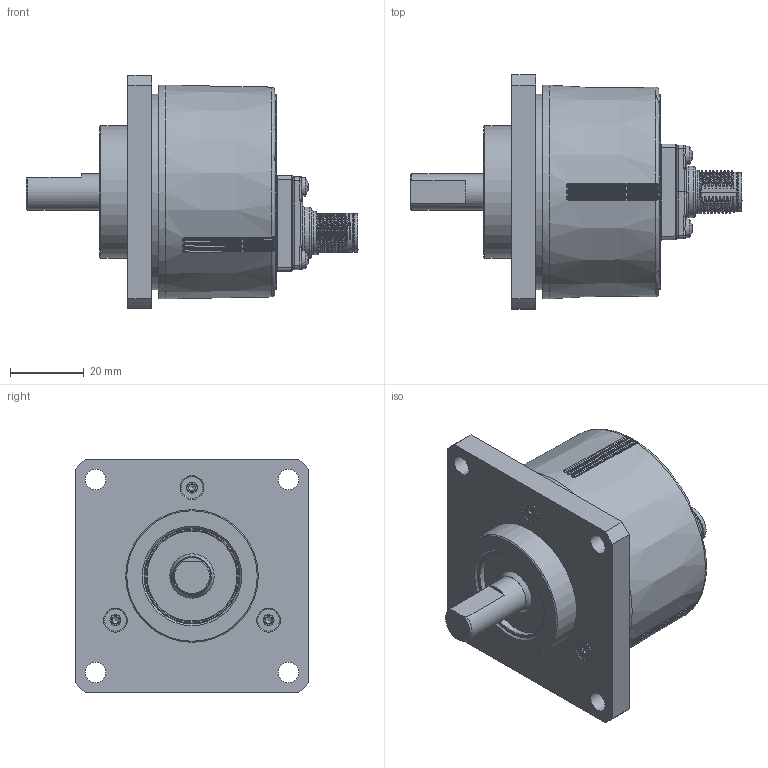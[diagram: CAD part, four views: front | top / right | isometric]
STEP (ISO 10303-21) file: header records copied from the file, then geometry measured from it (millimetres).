
FILE_DESCRIPTION( ( 'Unknown' ), '1' );
FILE_NAME( '//emea.baumernet.org/de05d/RD/caddy/k/GESAMT/EIL580/EIL580/3D/STEP/MarCom/EIL580-SQ10.7Ax.xxxxx.A.stp', 'Unknown', ( 'Unknown' ), ( 'Unknown' ), 'PSStep 19.0.9', 'Unknown', ' ' );
FILE_SCHEMA( ( 'AUTOMOTIVE_DESIGN { 1 0 10303 214 1 1 1 1 }' ) );
Length unit declared in the file: millimetre
Products named in the file (2): Assem1; 1_193
Assembly tree (1 placements, depth 2):
  Assem1
    1_193
Bounding box: 90.15 x 63.5 x 63.5 mm (x, y, z)
Volume: 124606.6 mm3; surface area: 26326.7 mm2
Topology: 1 solids, 25 shells, 809 faces, 1939 edges, 1186 vertices
Faces by surface type: cylinder 246, bspline 225, plane 178, cone 61, torus 58, sphere 39, revolution 2
Full cylindrical faces by diameter (mm): 1 x8, 2.46 x3, 2.5 x4, 3 x6, 3.24 x6, 3.4 x3, 5 x4, 5.5 x4, 8.3 x1, 9 x1, 9.55 x2, 9.8 x1, 10 x2, 10.4 x1, 11.262 x1, 11.704 x1, 11.8 x2, 12.2 x1, 12.8 x1, 13.138 x1, 14 x1, 23.446 x1, 24 x1, 24.927 x1, 25.558 x1, 26 x2, 36 x2, 53 x2, 56 x1, 58 x2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
Entity records: 49417 total; most frequent: CARTESIAN_POINT 27117, ORIENTED_EDGE 3386, DIRECTION 2656, EDGE_CURVE 1693, AXIS2_PLACEMENT_3D 1161, VERTEX_POINT 1129, EDGE_LOOP 1031, FACE_OUTER_BOUND 902
